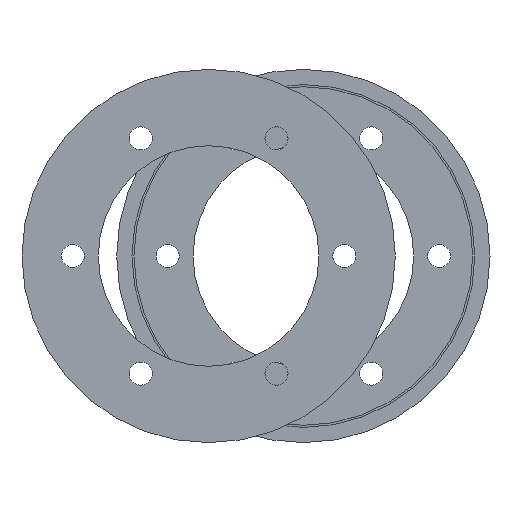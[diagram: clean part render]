
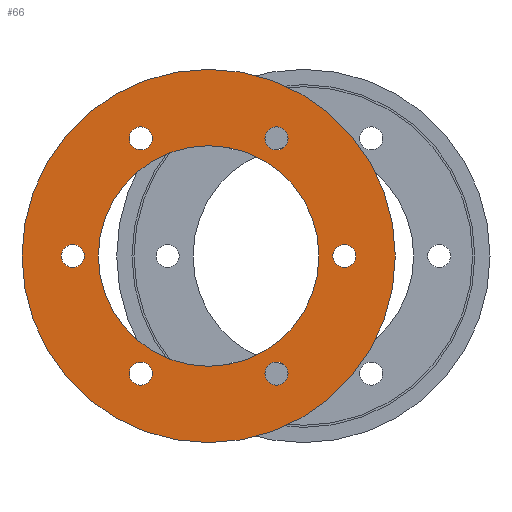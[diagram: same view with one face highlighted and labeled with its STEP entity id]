
A CAD part, left-side view. The second image highlights one B-rep face of the part: STEP entity #66.
In plain terms, the highlighted planar face has unit normal (-1, 0, 0).
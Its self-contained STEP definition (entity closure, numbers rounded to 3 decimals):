
#66 = ADVANCED_FACE( 'NONE', ( #131, #132, #133, #134, #135, #136, #137, #138 ), #139, .F. );
#131 = FACE_OUTER_BOUND( '', #201, .T. );
#132 = FACE_BOUND( '', #202, .T. );
#133 = FACE_BOUND( '', #203, .T. );
#134 = FACE_BOUND( '', #204, .T. );
#135 = FACE_BOUND( '', #205, .T. );
#136 = FACE_BOUND( '', #206, .T. );
#137 = FACE_BOUND( '', #207, .T. );
#138 = FACE_BOUND( '', #208, .T. );
#139 = PLANE( '', #209 );
#201 = EDGE_LOOP( '', ( #329 ) );
#202 = EDGE_LOOP( '', ( #330 ) );
#203 = EDGE_LOOP( '', ( #331 ) );
#204 = EDGE_LOOP( '', ( #332 ) );
#205 = EDGE_LOOP( '', ( #333 ) );
#206 = EDGE_LOOP( '', ( #334 ) );
#207 = EDGE_LOOP( '', ( #335 ) );
#208 = EDGE_LOOP( '', ( #336 ) );
#209 = AXIS2_PLACEMENT_3D( '', #337, #338, #339 );
#329 = ORIENTED_EDGE( '', *, *, #530, .T. );
#330 = ORIENTED_EDGE( '', *, *, #522, .F. );
#331 = ORIENTED_EDGE( '', *, *, #512, .F. );
#332 = ORIENTED_EDGE( '', *, *, #531, .F. );
#333 = ORIENTED_EDGE( '', *, *, #526, .F. );
#334 = ORIENTED_EDGE( '', *, *, #524, .F. );
#335 = ORIENTED_EDGE( '', *, *, #528, .F. );
#336 = ORIENTED_EDGE( '', *, *, #509, .F. );
#337 = CARTESIAN_POINT( '', ( 0., 32.5, 0. ) );
#338 = DIRECTION( '', ( 1., 0., 0. ) );
#339 = DIRECTION( '', ( 0., 1., 0. ) );
#509 = EDGE_CURVE( 'NONE', #691, #691, #692, .T. );
#512 = EDGE_CURVE( 'NONE', #696, #696, #697, .T. );
#522 = EDGE_CURVE( 'NONE', #714, #714, #715, .T. );
#524 = EDGE_CURVE( 'NONE', #717, #717, #718, .T. );
#526 = EDGE_CURVE( 'NONE', #720, #720, #721, .T. );
#528 = EDGE_CURVE( 'NONE', #723, #723, #724, .T. );
#530 = EDGE_CURVE( 'NONE', #726, #726, #727, .T. );
#531 = EDGE_CURVE( 'NONE', #728, #728, #729, .T. );
#691 = VERTEX_POINT( '', #993 );
#692 = CIRCLE( '', #994, 3.4 );
#696 = VERTEX_POINT( '', #998 );
#697 = CIRCLE( '', #999, 3.4 );
#714 = VERTEX_POINT( '', #1016 );
#715 = CIRCLE( '', #1017, 3.4 );
#717 = VERTEX_POINT( '', #1019 );
#718 = CIRCLE( '', #1020, 3.4 );
#720 = VERTEX_POINT( '', #1022 );
#721 = CIRCLE( '', #1023, 3.4 );
#723 = VERTEX_POINT( '', #1025 );
#724 = CIRCLE( '', #1026, 3.4 );
#726 = VERTEX_POINT( '', #1028 );
#727 = CIRCLE( '', #1029, 55. );
#728 = VERTEX_POINT( '', #1030 );
#729 = CIRCLE( '', #1031, 32.5 );
#993 = CARTESIAN_POINT( '', ( 0., 20., 38.041 ) );
#994 = AXIS2_PLACEMENT_3D( '', #1086, #1087, #1088 );
#998 = CARTESIAN_POINT( '', ( 0., -20., -31.241 ) );
#999 = AXIS2_PLACEMENT_3D( '', #1092, #1093, #1094 );
#1016 = CARTESIAN_POINT( '', ( 0., -20., 38.041 ) );
#1017 = AXIS2_PLACEMENT_3D( '', #1116, #1117, #1118 );
#1019 = CARTESIAN_POINT( '', ( 0., 20., -31.241 ) );
#1020 = AXIS2_PLACEMENT_3D( '', #1119, #1120, #1121 );
#1022 = CARTESIAN_POINT( '', ( 0., 40., 3.4 ) );
#1023 = AXIS2_PLACEMENT_3D( '', #1122, #1123, #1124 );
#1025 = CARTESIAN_POINT( '', ( 0., -40., 3.4 ) );
#1026 = AXIS2_PLACEMENT_3D( '', #1125, #1126, #1127 );
#1028 = CARTESIAN_POINT( '', ( 0., 0., 55. ) );
#1029 = AXIS2_PLACEMENT_3D( '', #1128, #1129, #1130 );
#1030 = CARTESIAN_POINT( '', ( 0., 0., 32.5 ) );
#1031 = AXIS2_PLACEMENT_3D( '', #1131, #1132, #1133 );
#1086 = CARTESIAN_POINT( '', ( 0., 20., 34.641 ) );
#1087 = DIRECTION( '', ( -1., 0., 0. ) );
#1088 = DIRECTION( '', ( 0., 0., 1. ) );
#1092 = CARTESIAN_POINT( '', ( 0., -20., -34.641 ) );
#1093 = DIRECTION( '', ( -1., 0., 0. ) );
#1094 = DIRECTION( '', ( 0., 0., 1. ) );
#1116 = CARTESIAN_POINT( '', ( 0., -20., 34.641 ) );
#1117 = DIRECTION( '', ( -1., 0., 0. ) );
#1118 = DIRECTION( '', ( 0., 0., 1. ) );
#1119 = CARTESIAN_POINT( '', ( 0., 20., -34.641 ) );
#1120 = DIRECTION( '', ( -1., 0., 0. ) );
#1121 = DIRECTION( '', ( 0., 0., 1. ) );
#1122 = CARTESIAN_POINT( '', ( 0., 40., 0. ) );
#1123 = DIRECTION( '', ( -1., 0., 0. ) );
#1124 = DIRECTION( '', ( 0., 0., 1. ) );
#1125 = CARTESIAN_POINT( '', ( 0., -40., 0. ) );
#1126 = DIRECTION( '', ( -1., 0., 0. ) );
#1127 = DIRECTION( '', ( 0., 0., 1. ) );
#1128 = CARTESIAN_POINT( '', ( 0., 0., 0. ) );
#1129 = DIRECTION( '', ( -1., 0., 0. ) );
#1130 = DIRECTION( '', ( 0., 0., 1. ) );
#1131 = CARTESIAN_POINT( '', ( 0., 0., 0. ) );
#1132 = DIRECTION( '', ( -1., 0., 0. ) );
#1133 = DIRECTION( '', ( 0., 0., 1. ) );
